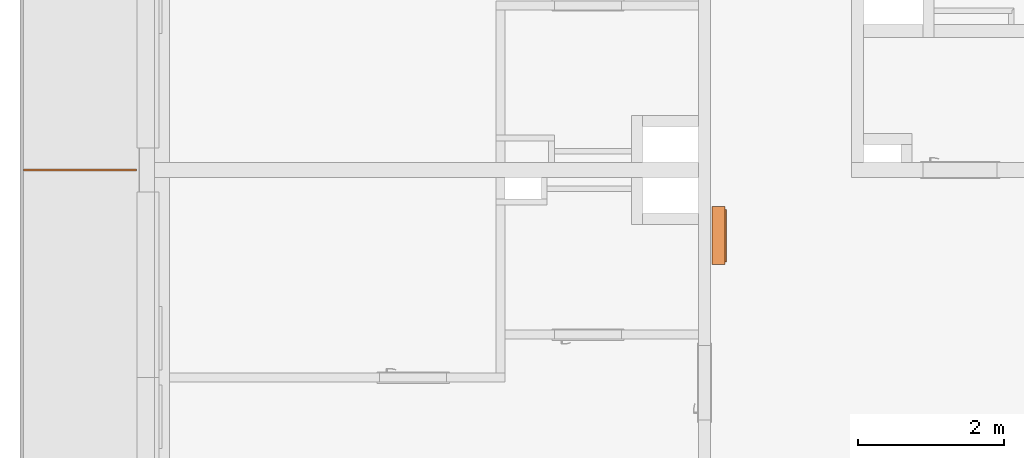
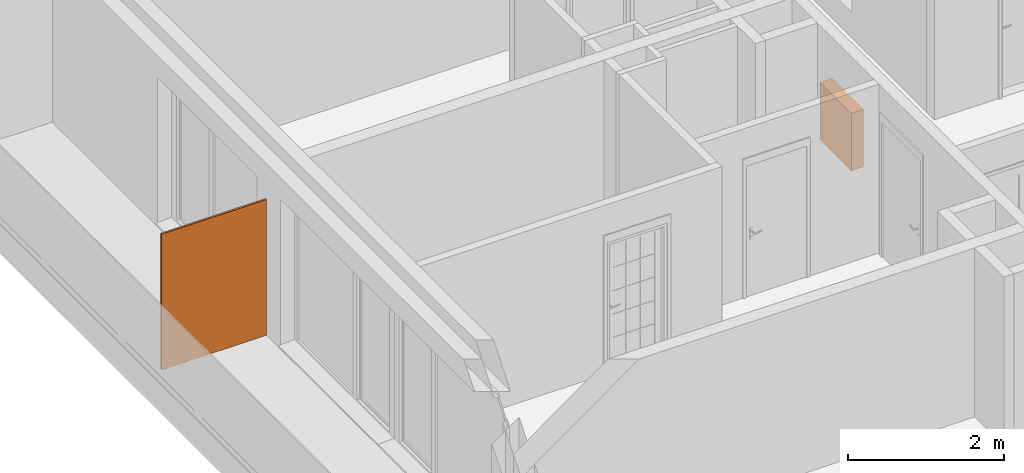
# One storey, part 19 of 67: 2 proxies.
"""IFC2X3 building model written with IfcOpenShell, lengths in millimetres."""

import ifcopenshell
import ifcopenshell.guid

model = None  # the IFC model being written
_history = None  # IfcOwnerHistory: only IFC2X3 demands one
_inside = {}  # id of a spatial element -> (the spatial element, [elements in it])
_under = {}  # id of a project, library or spatial element -> (it, [spatial elements below it])
_declared = {}  # id of a project -> (the project, [libraries it declares])
_typed = {}  # id of a type object -> (the type object, [elements of that type])
_made_of = {}  # id of a material, layer set ... -> (it, [elements and type objects made of it])


def new_model(schema):
    """Start an empty IFC model of exactly this schema.

    Asked for "IFC4X3", IfcOpenShell would pick the latest addendum, in which some entities
    have other attributes; the version numbers below select the first issue.
    IFC2X3 requires an IfcOwnerHistory on every rooted entity: one is made here for all.
    """
    global model, _history
    if schema == "IFC4X3":
        model = ifcopenshell.file(schema_version=(4, 3, 0, 0))
    else:
        model = ifcopenshell.file(schema=schema)
    _inside.clear()
    _under.clear()
    _declared.clear()
    _typed.clear()
    _made_of.clear()
    _history = None
    if model.schema == "IFC2X3":
        org = make("IfcOrganization", Name="unknown")
        user = make(
            "IfcPersonAndOrganization",
            ThePerson=make("IfcPerson", FamilyName="unknown"),
            TheOrganization=org,
        )
        app = make(
            "IfcApplication",
            ApplicationDeveloper=org,
            Version="unknown",
            ApplicationFullName="unknown",
            ApplicationIdentifier="unknown",
        )
        _history = make(
            "IfcOwnerHistory",
            OwningUser=user,
            OwningApplication=app,
            ChangeAction="ADDED",
            CreationDate=0,
        )
    return model


def make(cls, **values):
    """One entity of the class cls with the attributes given. An attribute that is None is left unset."""
    return model.create_entity(
        cls, **{name: value for name, value in values.items() if value is not None}
    )


def entity(cls, *values):
    """Any entity or typed value of the class cls, its attributes in the order of the schema. None: left unset."""
    e = model.create_entity(cls)
    for i, value in enumerate(values):
        if value is not None:
            e[i] = value
    return e


def rooted(cls, **values):
    """An entity with a GlobalId (a new one), such as an element, a storey or a relation."""
    return make(cls, GlobalId=ifcopenshell.guid.new(), OwnerHistory=_history, **values)


def si_unit(unit_type, name, prefix=None):
    """IfcSIUnit, for example si_unit("LENGTHUNIT", "METRE", prefix="MILLI")."""
    return make("IfcSIUnit", UnitType=unit_type, Prefix=prefix, Name=name)


def converted_unit(unit_type, name, factor, base, dimensions=None, offset=None):
    """IfcConversionBasedUnit, such as the inch: factor (a typed value) times the base unit."""
    return make(
        "IfcConversionBasedUnit"
        if offset is None
        else "IfcConversionBasedUnitWithOffset",
        ConversionOffset=offset,
        Dimensions=None
        if dimensions is None
        else entity("IfcDimensionalExponents", *dimensions),
        UnitType=unit_type,
        Name=name,
        ConversionFactor=make(
            "IfcMeasureWithUnit", ValueComponent=factor, UnitComponent=base
        ),
    )


def derived_unit(unit_type, elements):
    """IfcDerivedUnit: a product of units, each with its exponent."""
    return make(
        "IfcDerivedUnit",
        Elements=[
            make("IfcDerivedUnitElement", Unit=unit, Exponent=power)
            for unit, power in elements
        ],
        UnitType=unit_type,
    )


def money_unit(currency):
    """IfcMonetaryUnit."""
    return make("IfcMonetaryUnit", Currency=currency)


def assignment(units):
    """IfcUnitAssignment: the units of a project."""
    return None if units is None else make("IfcUnitAssignment", Units=units)


def point(xyz):
    """IfcCartesianPoint."""
    return None if xyz is None else make("IfcCartesianPoint", Coordinates=xyz)


def direction(xyz):
    """IfcDirection."""
    return None if xyz is None else make("IfcDirection", DirectionRatios=xyz)


def frame(location, z_axis=None, x_axis=None):
    """IfcAxis2Placement3D, a coordinate frame: its origin and axes. An axis left out is left unset."""
    return make(
        "IfcAxis2Placement3D",
        Location=point(location),
        Axis=direction(z_axis),
        RefDirection=direction(x_axis),
    )


def origin_with_axes():
    """The frame at (0, 0, 0) with the z axis (0, 0, 1) and the x axis (1, 0, 0) written out."""
    return frame((0.0, 0.0, 0.0), z_axis=(0.0, 0.0, 1.0), x_axis=(1.0, 0.0, 0.0))


def place(relative_to, where):
    """IfcLocalPlacement: puts the frame where relative to a parent placement (None: the world)."""
    return make(
        "IfcLocalPlacement", PlacementRelTo=relative_to, RelativePlacement=where
    )


def context(
    kind, dimensions, precision=None, world=None, true_north=None, identifier=None
):
    """IfcGeometricRepresentationContext, for example the 3D "Model" context."""
    return make(
        "IfcGeometricRepresentationContext",
        ContextIdentifier=identifier,
        ContextType=kind,
        CoordinateSpaceDimension=dimensions,
        Precision=precision,
        WorldCoordinateSystem=world,
        TrueNorth=true_north,
    )


def subcontext(parent, identifier, kind, view, scale=None):
    """IfcGeometricRepresentationSubContext, for example "Body" below "Model"."""
    return make(
        "IfcGeometricRepresentationSubContext",
        ContextIdentifier=identifier,
        ContextType=kind,
        ParentContext=parent,
        TargetScale=scale,
        TargetView=view,
    )


def project(units=None, contexts=None):
    """IfcProject with its units and contexts."""
    return rooted(
        "IfcProject",
        Name="project",
        RepresentationContexts=contexts,
        UnitsInContext=assignment(units),
    )


def spatial(cls, under=None, at=None, **own):
    """A site, building, storey or space (cls), placed at a placement, below another one or the project."""
    s = rooted(cls, ObjectPlacement=at, **own)
    if under is not None:
        _under.setdefault(under.id(), (under, []))[1].append(s)
    return s


def polyline(points):
    """IfcPolyline through the points."""
    return make("IfcPolyline", Points=[point(p) for p in points])


def outline(outer, holes=None, kind="AREA"):
    """IfcArbitraryClosedProfileDef: a profile drawn as a closed curve; with holes, ...WithVoids."""
    if holes is None:
        return make("IfcArbitraryClosedProfileDef", ProfileType=kind, OuterCurve=outer)
    return make(
        "IfcArbitraryProfileDefWithVoids",
        ProfileType=kind,
        OuterCurve=outer,
        InnerCurves=holes,
    )


def extrude(swept, where, along, depth):
    """IfcExtrudedAreaSolid: the profile swept, set in the frame where, extruded along a direction by depth."""
    return make(
        "IfcExtrudedAreaSolid",
        SweptArea=swept,
        Position=where,
        ExtrudedDirection=direction(along),
        Depth=depth,
    )


def faces_of(points, faces, orient=None, outer=None):
    """IfcFace entities. A face is a list of loops; a loop is a list of indices into points, from 0.

    orient and outer hold one flag for each loop. By default every Orientation is true, the
    first loop of a face is its IfcFaceOuterBound and the others are IfcFaceBound.
    """
    made = []
    for i, loops in enumerate(faces):
        bounds = []
        for j, loop in enumerate(loops):
            is_outer = j == 0 if outer is None else outer[i][j]
            bounds.append(
                make(
                    "IfcFaceOuterBound" if is_outer else "IfcFaceBound",
                    Bound=make("IfcPolyLoop", Polygon=[points[k] for k in loop]),
                    Orientation=True if orient is None else orient[i][j],
                )
            )
        made.append(make("IfcFace", Bounds=bounds))
    return made


def faceted_brep(points, faces, orient=None, outer=None, voids=None):
    """IfcFacetedBrep: a solid bounded by flat faces; with voids (closed shells), ...WithVoids."""
    shared = [point(p) for p in points]
    hull = make("IfcClosedShell", CfsFaces=faces_of(shared, faces, orient, outer))
    if voids is None:
        return make("IfcFacetedBrep", Outer=hull)
    return make(
        "IfcFacetedBrepWithVoids",
        Outer=hull,
        Voids=[
            make(cls, CfsFaces=faces_of(shared, fs, o, b)) for cls, fs, o, b in voids
        ],
    )


def shape(context_of_items, identifier, shape_type, items):
    """IfcShapeRepresentation: the items that make up one representation, for example the "Body"."""
    return make(
        "IfcShapeRepresentation",
        ContextOfItems=context_of_items,
        RepresentationIdentifier=identifier,
        RepresentationType=shape_type,
        Items=items,
    )


def source(mapping_origin, context_of_items, identifier, shape_type, items):
    """IfcRepresentationMap: a shape defined once, which mapped items show again and again."""
    return make(
        "IfcRepresentationMap",
        MappingOrigin=mapping_origin,
        MappedRepresentation=shape(context_of_items, identifier, shape_type, items),
    )


def transform(
    local_origin,
    x_axis=None,
    y_axis=None,
    z_axis=None,
    scale=None,
    scale2=None,
    scale3=None,
    uniform=True,
):
    """IfcCartesianTransformationOperator3D, or its non-uniform kind. x_axis, y_axis, z_axis: its Axis1, 2, 3."""
    if uniform:
        return make(
            "IfcCartesianTransformationOperator3D",
            Axis1=direction(x_axis),
            Axis2=direction(y_axis),
            LocalOrigin=point(local_origin),
            Scale=scale,
            Axis3=direction(z_axis),
        )
    return make(
        "IfcCartesianTransformationOperator3DnonUniform",
        Axis1=direction(x_axis),
        Axis2=direction(y_axis),
        LocalOrigin=point(local_origin),
        Scale=scale,
        Axis3=direction(z_axis),
        Scale2=scale2,
        Scale3=scale3,
    )


def mapped(mapping_source, mapping_target):
    """IfcMappedItem: shows the shape of a source again, moved by a transform."""
    return make(
        "IfcMappedItem", MappingSource=mapping_source, MappingTarget=mapping_target
    )


def material(Name=None, Category=None):
    """IfcMaterial."""
    return make("IfcMaterial", Name=Name, Category=Category)


def made_of(thing, what):
    """Note that an element or type object is made of a material, layer set ...; save() writes the relation."""
    if what is not None:
        _made_of.setdefault(what.id(), (what, []))[1].append(thing)
    return thing


def type_object(cls, material=None, **own):
    """A type object (cls), such as IfcWallType, which elements share."""
    return made_of(rooted(cls, **own), material)


def element(
    cls,
    number,
    at=None,
    inside=None,
    cuts=None,
    type_object=None,
    material=None,
    context=None,
    identifier="Body",
    shape_type=None,
    held_by="IfcProductDefinitionShape",
    body=None,
    shapes=None,
    **own,
):
    """One element of the class cls, such as IfcWall. Its Tag is "e" and its number.

    at: its placement. inside: the storey or other place that contains it. cuts: it is an
    opening in that element (IfcRelVoidsElement). A single representation is given by context,
    identifier, shape_type and body (its items); several are given by shapes. held_by: the class
    of the entity that holds the representations. save() writes the other relations.
    """
    e = rooted(cls, Tag="e%d" % number, ObjectPlacement=at, **own)
    if body is not None:
        shapes = [shape(context, identifier, shape_type, body)]
    if shapes is not None:
        e.Representation = make(held_by, Representations=shapes)
    if inside is not None:
        _inside.setdefault(inside.id(), (inside, []))[1].append(e)
    if cuts is not None:
        rooted(
            "IfcRelVoidsElement", RelatingBuildingElement=cuts, RelatedOpeningElement=e
        )
    if type_object is not None:
        _typed.setdefault(type_object.id(), (type_object, []))[1].append(e)
    return made_of(e, material)


def aggregate(whole, parts):
    """IfcRelAggregates: a whole, such as a stair, and the parts it consists of."""
    return rooted("IfcRelAggregates", RelatingObject=whole, RelatedObjects=parts)


def save(model, path):
    """Write the relations noted so far, then the file.

    IfcRelAggregates (storeys below a building ...), IfcRelContainedInSpatialStructure (elements
    in a storey), IfcRelDefinesByType, IfcRelAssociatesMaterial and IfcRelDeclares: one each for
    every whole, place, type object, material and project.
    """
    for whole, parts in _under.values():
        aggregate(whole, parts)
    for where, things in _inside.values():
        rooted(
            "IfcRelContainedInSpatialStructure",
            RelatedElements=things,
            RelatingStructure=where,
        )
    for kind, things in _typed.values():
        rooted("IfcRelDefinesByType", RelatedObjects=things, RelatingType=kind)
    for what, things in _made_of.values():
        rooted("IfcRelAssociatesMaterial", RelatedObjects=things, RelatingMaterial=what)
    for by, libraries in _declared.values():
        rooted("IfcRelDeclares", RelatingContext=by, RelatedDefinitions=libraries)
    model.write(path)


model = new_model("IFC2X3")

# Units and contexts
model_context = context("Model", 3, precision=0.01, world=origin_with_axes(), true_north=direction((0.34421633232, 0.938890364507)))
body_context = subcontext(model_context, "Body", "Model", "MODEL_VIEW")
ifc_project = project(units=[si_unit("LENGTHUNIT", "METRE", prefix="MILLI"), si_unit("AREAUNIT", "SQUARE_METRE"), si_unit("VOLUMEUNIT", "CUBIC_METRE"), converted_unit("PLANEANGLEUNIT", "DEGREE", entity("IfcPlaneAngleMeasure", 0.0174532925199), si_unit("PLANEANGLEUNIT", "RADIAN"), dimensions=[0, 0, 0, 0, 0, 0, 0]), si_unit("SOLIDANGLEUNIT", "STERADIAN"), money_unit("USD"), converted_unit("TIMEUNIT", "Year", entity("IfcTimeMeasure", 31556926.0), si_unit("TIMEUNIT", "SECOND"), dimensions=[0, 0, 1, 0, 0, 0, 0]), si_unit("MASSUNIT", "GRAM", prefix="KILO"), si_unit("THERMODYNAMICTEMPERATUREUNIT", "DEGREE_CELSIUS"), si_unit("LUMINOUSINTENSITYUNIT", "LUMEN"), si_unit("ENERGYUNIT", "JOULE", prefix="MEGA"), derived_unit("THERMALCONDUCTANCEUNIT", [(si_unit("POWERUNIT", "WATT"), 1), (si_unit("LENGTHUNIT", "METRE"), -1), (si_unit("THERMODYNAMICTEMPERATUREUNIT", "KELVIN"), -1)]), derived_unit("SPECIFICHEATCAPACITYUNIT", [(si_unit("ENERGYUNIT", "JOULE"), 1), (si_unit("MASSUNIT", "GRAM", prefix="KILO"), -1), (si_unit("THERMODYNAMICTEMPERATUREUNIT", "KELVIN"), -1)]), derived_unit("MASSDENSITYUNIT", [(si_unit("MASSUNIT", "GRAM", prefix="KILO"), 1), (si_unit("VOLUMEUNIT", "CUBIC_METRE"), -1)])], contexts=[model_context])

# Site, building, storey
site_placement = place(None, origin_with_axes())
site = spatial("IfcSite", under=ifc_project, at=site_placement, Name="USTRONIE MORSKIE", CompositionType="ELEMENT")
building_placement = place(site_placement, origin_with_axes())
building = spatial("IfcBuilding", under=site, at=building_placement, Name="Budynek", CompositionType="ELEMENT")
storey_placement = place(building_placement, frame((0.0, 0.0, 4000.0), z_axis=(0.0, 0.0, 1.0), x_axis=(1.0, 0.0, 0.0)))
storey = spatial("IfcBuildingStorey", under=building, at=storey_placement, Name="PIĘTRO 1", CompositionType="ELEMENT", Elevation=4000.0)

# Proxies
ifc_material = material(Name="Woda")
building_element_proxy_type_1 = type_object("IfcBuildingElementProxyType", Name="Woda 30", PredefinedType="NOTDEFINED")
proxy_1_placement = place(storey_placement, frame((349717.920919, 738801.199036, 20.0), z_axis=(0.0, 0.0, 1.0), x_axis=(-1.0, 0.0, 0.0)))
element("IfcBuildingElementProxy", 1, at=proxy_1_placement, inside=storey, type_object=building_element_proxy_type_1, material=ifc_material, Name="Œciana-007", context=body_context, shape_type="SweptSolid", body=[
    extrude(outline(polyline([(0.0, -15.0), (1550.0, -15.0), (1550.0, 15.0), (0.0, 15.0), (0.0, -15.0)])), origin_with_axes(), (0.0, 0.0, 1.0), 2120.0),
])
building_element_proxy_type_2 = type_object("IfcBuildingElementProxyType", Name="Skrzynka P-Poż 23", PredefinedType="NOTDEFINED")
shared_shape = source(origin_with_axes(), body_context, "Body", "Brep", [
    faceted_brep([(0.0, 40.0, 0.0), (800.0, 40.0, 0.0), (800.0, 20.0, 0.0), (0.0, 20.0, 0.0), (0.0, 40.0, 900.0), (800.0, 40.0, 900.0), (60.0, 40.0, 60.0), (740.0, 40.0, 60.0), (740.0, 40.0, 840.0), (60.0, 40.0, 840.0), (800.0, 20.0, 900.0), (0.0, 20.0, 900.0), (60.0, 20.0, 60.0), (60.0, 20.0, 840.0), (740.0, 20.0, 840.0), (740.0, 20.0, 60.0)], [[[0, 1, 2, 3]], [[0, 4, 5, 1], [6, 7, 8, 9]], [[1, 5, 10, 2]], [[3, 2, 10, 11], [12, 13, 14, 15]], [[4, 0, 3, 11]], [[5, 4, 11, 10]], [[7, 6, 12, 15]], [[8, 7, 15, 14]], [[9, 8, 14, 13]], [[6, 9, 13, 12]]]),
    faceted_brep([(40.0, 20.0, 40.0), (760.0, 20.0, 40.0), (760.0, 0.0, 40.0), (40.0, 0.0, 40.0), (40.0, 20.0, 860.0), (760.0, 20.0, 860.0), (80.0, 20.0, 80.0), (720.0, 20.0, 80.0), (720.0, 20.0, 820.0), (80.0, 20.0, 820.0), (760.0, 0.0, 860.0), (40.0, 0.0, 860.0), (80.0, 0.0, 80.0), (80.0, 0.0, 820.0), (720.0, 0.0, 820.0), (720.0, 0.0, 80.0)], [[[0, 1, 2, 3]], [[0, 4, 5, 1], [6, 7, 8, 9]], [[1, 5, 10, 2]], [[3, 2, 10, 11], [12, 13, 14, 15]], [[4, 0, 3, 11]], [[5, 4, 11, 10]], [[7, 6, 12, 15]], [[8, 7, 15, 14]], [[9, 8, 14, 13]], [[6, 9, 13, 12]]]),
    faceted_brep([(0.0, 180.0, 0.0), (800.0, 180.0, 0.0), (800.0, 40.0, 0.0), (0.0, 40.0, 0.0), (0.0, 180.0, 900.0), (800.0, 180.0, 900.0), (20.0, 180.0, 20.0), (780.0, 180.0, 20.0), (780.0, 180.0, 880.0), (20.0, 180.0, 880.0), (800.0, 40.0, 900.0), (0.0, 40.0, 900.0), (20.0, 40.0, 20.0), (20.0, 40.0, 880.0), (780.0, 40.0, 880.0), (780.0, 40.0, 20.0)], [[[0, 1, 2, 3]], [[0, 4, 5, 1], [6, 7, 8, 9]], [[1, 5, 10, 2]], [[3, 2, 10, 11], [12, 13, 14, 15]], [[4, 0, 3, 11]], [[5, 4, 11, 10]], [[7, 6, 12, 15]], [[8, 7, 15, 14]], [[9, 8, 14, 13]], [[6, 9, 13, 12]]]),
    faceted_brep([(0.0, 200.0, 0.0), (800.0, 200.0, 0.0), (800.0, 180.0, 0.0), (0.0, 180.0, 0.0), (0.0, 200.0, 900.0), (800.0, 200.0, 900.0), (800.0, 180.0, 900.0), (0.0, 180.0, 900.0)], [[[0, 1, 2, 3]], [[0, 4, 5, 1]], [[1, 5, 6, 2]], [[3, 2, 6, 7]], [[4, 0, 3, 7]], [[5, 4, 7, 6]]]),
    faceted_brep([(80.0, 15.0, 80.0), (720.0, 15.0, 80.0), (720.0, 5.0, 80.0), (80.0, 5.0, 80.0), (80.0, 15.0, 820.0), (720.0, 15.0, 820.0), (720.0, 5.0, 820.0), (80.0, 5.0, 820.0)], [[[0, 1, 2, 3]], [[0, 4, 5, 1]], [[1, 5, 6, 2]], [[3, 2, 6, 7]], [[4, 0, 3, 7]], [[5, 4, 7, 6]]]),
    faceted_brep([(749.659258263, 0.0, 447.411809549), (748.660254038, 0.0, 445.0), (747.071067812, 0.0, 442.928932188), (745.0, 0.0, 441.339745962), (742.588190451, 0.0, 440.340741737), (740.0, 0.0, 440.0), (737.411809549, 0.0, 440.340741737), (735.0, 0.0, 441.339745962), (732.928932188, 0.0, 442.928932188), (731.339745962, 0.0, 445.0), (730.340741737, 0.0, 447.411809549), (730.0, 0.0, 450.0), (730.340741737, 0.0, 452.588190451), (731.339745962, 0.0, 455.0), (732.928932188, 0.0, 457.071067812), (735.0, 0.0, 458.660254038), (737.411809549, 0.0, 459.659258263), (740.0, 0.0, 460.0), (742.588190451, 0.0, 459.659258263), (745.0, 0.0, 458.660254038), (747.071067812, 0.0, 457.071067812), (748.660254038, 0.0, 455.0), (749.659258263, 0.0, 452.588190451), (750.0, 0.0, 450.0), (749.659258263, -2.0, 447.411809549), (748.660254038, -2.0, 445.0), (747.071067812, -2.0, 442.928932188), (745.0, -2.0, 441.339745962), (742.588190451, -2.0, 440.340741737), (740.0, -2.0, 440.0), (737.411809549, -2.0, 440.340741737), (735.0, -2.0, 441.339745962), (732.928932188, -2.0, 442.928932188), (731.339745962, -2.0, 445.0), (730.340741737, -2.0, 447.411809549), (730.0, -2.0, 450.0), (730.340741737, -2.0, 452.588190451), (731.339745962, -2.0, 455.0), (732.928932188, -2.0, 457.071067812), (735.0, -2.0, 458.660254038), (737.411809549, -2.0, 459.659258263), (740.0, -2.0, 460.0), (742.588190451, -2.0, 459.659258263), (745.0, -2.0, 458.660254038), (747.071067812, -2.0, 457.071067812), (748.660254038, -2.0, 455.0), (749.659258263, -2.0, 452.588190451), (750.0, -2.0, 450.0)], [[[0, 1, 2, 3, 4, 5, 6, 7, 8, 9, 10, 11, 12, 13, 14, 15, 16, 17, 18, 19, 20, 21, 22, 23]], [[1, 0, 24, 25]], [[2, 1, 25, 26]], [[3, 2, 26, 27]], [[4, 3, 27, 28]], [[5, 4, 28, 29]], [[6, 5, 29, 30]], [[7, 6, 30, 31]], [[8, 7, 31, 32]], [[9, 8, 32, 33]], [[10, 9, 33, 34]], [[11, 10, 34, 35]], [[12, 11, 35, 36]], [[13, 12, 36, 37]], [[14, 13, 37, 38]], [[15, 14, 38, 39]], [[16, 15, 39, 40]], [[17, 16, 40, 41]], [[18, 17, 41, 42]], [[19, 18, 42, 43]], [[20, 19, 43, 44]], [[21, 20, 44, 45]], [[22, 21, 45, 46]], [[23, 22, 46, 47]], [[0, 23, 47, 24]], [[24, 47, 46, 45, 44, 43, 42, 41, 40, 39, 38, 37, 36, 35, 34, 33, 32, 31, 30, 29, 28, 27, 26, 25]]]),
    faceted_brep([(39.8977774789, 16.2235428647, 80.0), (39.5980762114, 15.5, 80.0), (39.1213203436, 14.8786796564, 80.0), (38.5, 14.4019237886, 80.0), (37.7764571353, 14.1022225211, 80.0), (37.0, 14.0, 80.0), (36.2235428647, 14.1022225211, 80.0), (35.5, 14.4019237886, 80.0), (34.8786796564, 14.8786796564, 80.0), (34.4019237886, 15.5, 80.0), (34.1022225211, 16.2235428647, 80.0), (34.0, 17.0, 80.0), (34.1022225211, 17.7764571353, 80.0), (34.4019237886, 18.5, 80.0), (34.8786796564, 19.1213203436, 80.0), (35.5, 19.5980762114, 80.0), (36.2235428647, 19.8977774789, 80.0), (37.0, 20.0, 80.0), (37.7764571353, 19.8977774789, 80.0), (38.5, 19.5980762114, 80.0), (39.1213203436, 19.1213203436, 80.0), (39.5980762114, 18.5, 80.0), (39.8977774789, 17.7764571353, 80.0), (40.0, 17.0, 80.0), (39.8977774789, 16.2235428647, 120.0), (39.5980762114, 15.5, 120.0), (39.1213203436, 14.8786796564, 120.0), (38.5, 14.4019237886, 120.0), (37.7764571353, 14.1022225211, 120.0), (37.0, 14.0, 120.0), (36.2235428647, 14.1022225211, 120.0), (35.5, 14.4019237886, 120.0), (34.8786796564, 14.8786796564, 120.0), (34.4019237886, 15.5, 120.0), (34.1022225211, 16.2235428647, 120.0), (34.0, 17.0, 120.0), (34.1022225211, 17.7764571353, 120.0), (34.4019237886, 18.5, 120.0), (34.8786796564, 19.1213203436, 120.0), (35.5, 19.5980762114, 120.0), (36.2235428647, 19.8977774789, 120.0), (37.0, 20.0, 120.0), (37.7764571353, 19.8977774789, 120.0), (38.5, 19.5980762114, 120.0), (39.1213203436, 19.1213203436, 120.0), (39.5980762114, 18.5, 120.0), (39.8977774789, 17.7764571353, 120.0), (40.0, 17.0, 120.0)], [[[0, 1, 2, 3, 4, 5, 6, 7, 8, 9, 10, 11, 12, 13, 14, 15, 16, 17, 18, 19, 20, 21, 22, 23]], [[1, 0, 24, 25]], [[2, 1, 25, 26]], [[3, 2, 26, 27]], [[4, 3, 27, 28]], [[5, 4, 28, 29]], [[6, 5, 29, 30]], [[7, 6, 30, 31]], [[8, 7, 31, 32]], [[9, 8, 32, 33]], [[10, 9, 33, 34]], [[11, 10, 34, 35]], [[12, 11, 35, 36]], [[13, 12, 36, 37]], [[14, 13, 37, 38]], [[15, 14, 38, 39]], [[16, 15, 39, 40]], [[17, 16, 40, 41]], [[18, 17, 41, 42]], [[19, 18, 42, 43]], [[20, 19, 43, 44]], [[21, 20, 44, 45]], [[22, 21, 45, 46]], [[23, 22, 46, 47]], [[0, 23, 47, 24]], [[24, 47, 46, 45, 44, 43, 42, 41, 40, 39, 38, 37, 36, 35, 34, 33, 32, 31, 30, 29, 28, 27, 26, 25]]]),
    faceted_brep([(39.8977774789, 16.2235428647, 780.0), (39.5980762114, 15.5, 780.0), (39.1213203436, 14.8786796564, 780.0), (38.5, 14.4019237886, 780.0), (37.7764571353, 14.1022225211, 780.0), (37.0, 14.0, 780.0), (36.2235428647, 14.1022225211, 780.0), (35.5, 14.4019237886, 780.0), (34.8786796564, 14.8786796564, 780.0), (34.4019237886, 15.5, 780.0), (34.1022225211, 16.2235428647, 780.0), (34.0, 17.0, 780.0), (34.1022225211, 17.7764571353, 780.0), (34.4019237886, 18.5, 780.0), (34.8786796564, 19.1213203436, 780.0), (35.5, 19.5980762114, 780.0), (36.2235428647, 19.8977774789, 780.0), (37.0, 20.0, 780.0), (37.7764571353, 19.8977774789, 780.0), (38.5, 19.5980762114, 780.0), (39.1213203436, 19.1213203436, 780.0), (39.5980762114, 18.5, 780.0), (39.8977774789, 17.7764571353, 780.0), (40.0, 17.0, 780.0), (39.8977774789, 16.2235428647, 820.0), (39.5980762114, 15.5, 820.0), (39.1213203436, 14.8786796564, 820.0), (38.5, 14.4019237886, 820.0), (37.7764571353, 14.1022225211, 820.0), (37.0, 14.0, 820.0), (36.2235428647, 14.1022225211, 820.0), (35.5, 14.4019237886, 820.0), (34.8786796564, 14.8786796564, 820.0), (34.4019237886, 15.5, 820.0), (34.1022225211, 16.2235428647, 820.0), (34.0, 17.0, 820.0), (34.1022225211, 17.7764571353, 820.0), (34.4019237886, 18.5, 820.0), (34.8786796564, 19.1213203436, 820.0), (35.5, 19.5980762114, 820.0), (36.2235428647, 19.8977774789, 820.0), (37.0, 20.0, 820.0), (37.7764571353, 19.8977774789, 820.0), (38.5, 19.5980762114, 820.0), (39.1213203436, 19.1213203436, 820.0), (39.5980762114, 18.5, 820.0), (39.8977774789, 17.7764571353, 820.0), (40.0, 17.0, 820.0)], [[[0, 1, 2, 3, 4, 5, 6, 7, 8, 9, 10, 11, 12, 13, 14, 15, 16, 17, 18, 19, 20, 21, 22, 23]], [[1, 0, 24, 25]], [[2, 1, 25, 26]], [[3, 2, 26, 27]], [[4, 3, 27, 28]], [[5, 4, 28, 29]], [[6, 5, 29, 30]], [[7, 6, 30, 31]], [[8, 7, 31, 32]], [[9, 8, 32, 33]], [[10, 9, 33, 34]], [[11, 10, 34, 35]], [[12, 11, 35, 36]], [[13, 12, 36, 37]], [[14, 13, 37, 38]], [[15, 14, 38, 39]], [[16, 15, 39, 40]], [[17, 16, 40, 41]], [[18, 17, 41, 42]], [[19, 18, 42, 43]], [[20, 19, 43, 44]], [[21, 20, 44, 45]], [[22, 21, 45, 46]], [[23, 22, 46, 47]], [[0, 23, 47, 24]], [[24, 47, 46, 45, 44, 43, 42, 41, 40, 39, 38, 37, 36, 35, 34, 33, 32, 31, 30, 29, 28, 27, 26, 25]]]),
])
proxy_2_placement = place(storey_placement, frame((357817.920919, 737501.1917, 600.0), z_axis=(0.0, 0.0, 1.0), x_axis=(0.0, 1.0, 0.0)))
element("IfcBuildingElementProxy", 2, at=proxy_2_placement, inside=storey, type_object=building_element_proxy_type_2, Name="OB3", context=body_context, shape_type="MappedRepresentation", body=[
    mapped(shared_shape, transform((0.0, 0.0, 0.0))),
])

save(model, "model.ifc")
